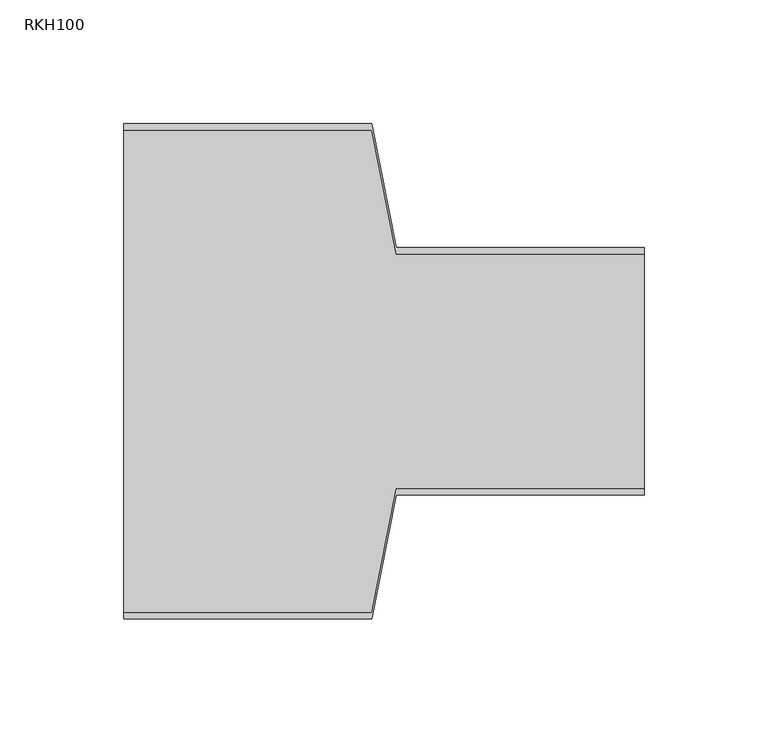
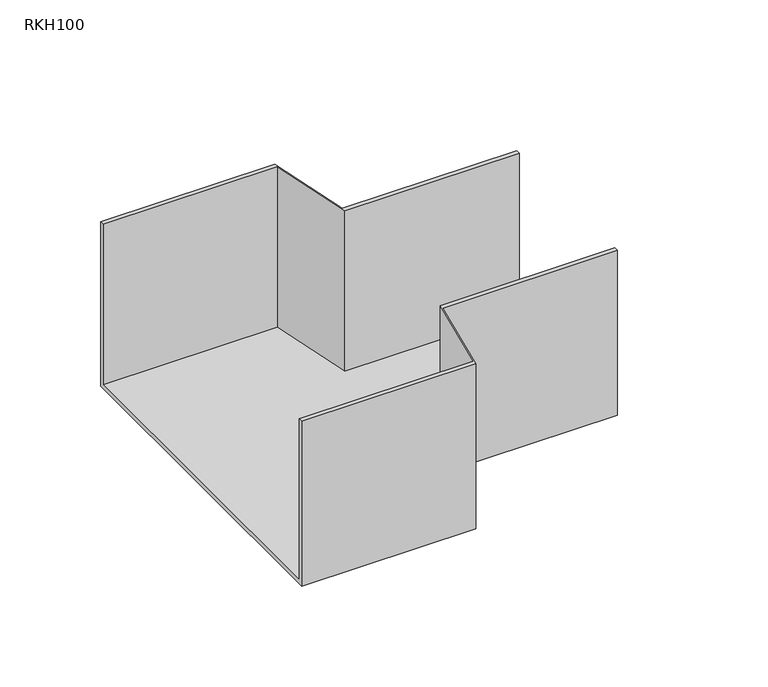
"""IFC4 building model written with IfcOpenShell, lengths in millimetres: cable carrier fitting geometry, BAKS_Reduction-angular_RK : RKH100."""

from ifc_helpers import new_model, si_unit, origin, place, context, project, spatial, faceted_brep, source, transform, mapped, element, save


def rkh100_6825da00(model_context):
    return source(origin(), model_context, "Body", "Brep", [
        faceted_brep([(0.0, -100.0, -50.0), (0.0, -100.0, 50.0), (0.0, -97.46, 50.0), (0.0, -97.46, -47.46), (0.0, 97.46, -47.46), (0.0, 97.46, 50.0), (0.0, 100.0, 50.0), (0.0, 100.0, -50.0), (210.0, -50.0, -50.0), (210.0, 50.0, -50.0), (210.0, 50.0, 50.0), (210.0, 47.46, 50.0), (210.0, 47.46, -47.46), (210.0, -47.46, -47.46), (210.0, -47.46, 50.0), (210.0, -50.0, 50.0), (100.0, -100.0, -50.0), (100.0, -100.0, 50.0), (110.0, -50.0, 50.0), (110.0, -47.46, 50.0), (100.0, -97.46, 50.0), (100.0, -97.46, -47.46), (110.0, -47.46, -47.46), (110.0, 47.46, -47.46), (100.0, 97.46, -47.46), (100.0, 97.46, 50.0), (110.0, 47.46, 50.0), (110.0, 50.0, 50.0), (100.0, 100.0, 50.0), (100.0, 100.0, -50.0), (110.0, 50.0, -50.0), (110.0, -50.0, -50.0)], [[[0, 1, 2, 3, 4, 5, 6, 7]], [[8, 9, 10, 11, 12, 13, 14, 15]], [[1, 0, 16, 17]], [[2, 1, 17, 18, 15, 14, 19, 20]], [[3, 2, 20, 21]], [[4, 3, 21, 22, 13, 12, 23, 24]], [[5, 4, 24, 25]], [[6, 5, 25, 26, 11, 10, 27, 28]], [[7, 6, 28, 29]], [[0, 7, 29, 30, 9, 8, 31, 16]], [[8, 15, 18, 31]], [[14, 13, 22, 19]], [[12, 11, 26, 23]], [[10, 9, 30, 27]], [[30, 29, 28, 27]], [[26, 25, 24, 23]], [[22, 21, 20, 19]], [[16, 31, 18, 17]]]),
    ])


if __name__ == "__main__":
    model = new_model("IFC4")
    model_context = context("Model", 3, world=origin())
    ifc_project = project(units=[si_unit("LENGTHUNIT", "METRE", prefix="MILLI")], contexts=[model_context])
    site = spatial("IfcSite", under=ifc_project)
    building = spatial("IfcBuilding", under=site)
    placement = place(None, origin())
    rkh100_shape = rkh100_6825da00(model_context)
    element("IfcCableCarrierFitting", 1, ObjectType="BAKS_Reduction-angular_RK : RKH100", at=placement, inside=building, context=model_context, shape_type="MappedRepresentation", body=[
        mapped(rkh100_shape, transform((0.0, 0.0, 0.0), x_axis=(1.0, 0.0, 0.0), y_axis=(0.0, 1.0, 0.0), z_axis=(0.0, 0.0, 1.0))),
    ])
    save(model, "model.ifc")
